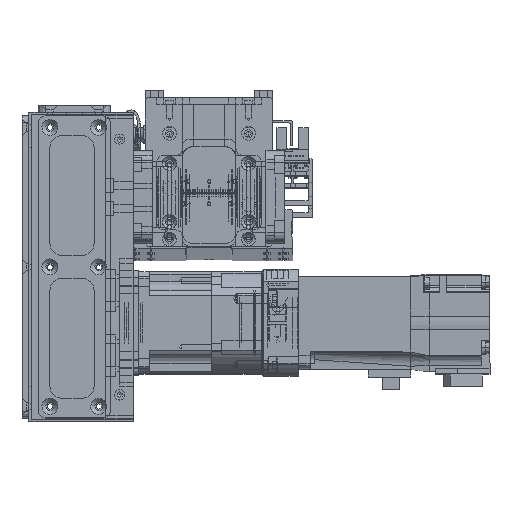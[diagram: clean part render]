
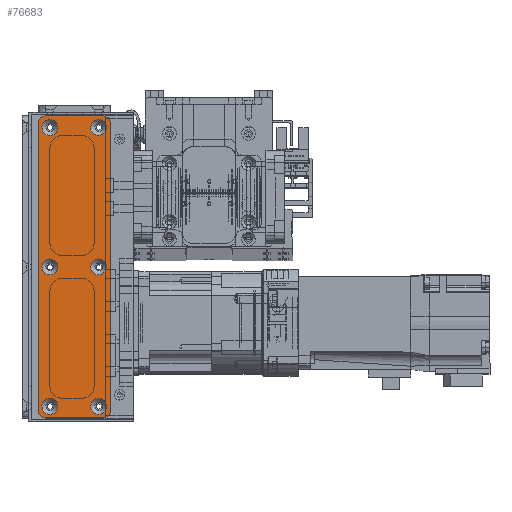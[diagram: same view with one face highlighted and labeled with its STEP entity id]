
A CAD part, top view. The second image highlights one B-rep face of the part: STEP entity #76683.
In plain terms, the highlighted planar face has unit normal (0, 0, 1).
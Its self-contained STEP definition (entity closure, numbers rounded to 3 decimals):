
#1918=FACE_BOUND('',#13264,.T.);
#1919=FACE_BOUND('',#13265,.T.);
#1920=FACE_BOUND('',#13266,.T.);
#1921=FACE_BOUND('',#13267,.T.);
#1922=FACE_BOUND('',#13268,.T.);
#1923=FACE_BOUND('',#13269,.T.);
#4550=PLANE('',#84398);
#8546=FACE_OUTER_BOUND('',#13263,.T.);
#13263=EDGE_LOOP('',(#71626,#71627,#71628,#71629,#71630,#71631,#71632,#71633));
#13264=EDGE_LOOP('',(#71634));
#13265=EDGE_LOOP('',(#71635));
#13266=EDGE_LOOP('',(#71636));
#13267=EDGE_LOOP('',(#71637));
#13268=EDGE_LOOP('',(#71638));
#13269=EDGE_LOOP('',(#71639));
#16391=CIRCLE('',#84352,3.45);
#16394=CIRCLE('',#84357,3.45);
#16397=CIRCLE('',#84362,3.45);
#16400=CIRCLE('',#84367,3.45);
#16403=CIRCLE('',#84372,3.45);
#16406=CIRCLE('',#84377,3.45);
#16413=CIRCLE('',#84387,3.);
#16414=CIRCLE('',#84390,3.);
#16415=CIRCLE('',#84393,3.);
#16416=CIRCLE('',#84396,3.);
#24078=LINE('',#132778,#31749);
#24081=LINE('',#132786,#31752);
#24084=LINE('',#132794,#31755);
#24087=LINE('',#132801,#31758);
#31749=VECTOR('',#105737,10.);
#31752=VECTOR('',#105746,10.);
#31755=VECTOR('',#105755,10.);
#31758=VECTOR('',#105764,10.);
#38900=VERTEX_POINT('',#132694);
#38903=VERTEX_POINT('',#132704);
#38906=VERTEX_POINT('',#132714);
#38909=VERTEX_POINT('',#132724);
#38912=VERTEX_POINT('',#132734);
#38915=VERTEX_POINT('',#132744);
#38926=VERTEX_POINT('',#132771);
#38927=VERTEX_POINT('',#132773);
#38928=VERTEX_POINT('',#132777);
#38929=VERTEX_POINT('',#132781);
#38930=VERTEX_POINT('',#132785);
#38931=VERTEX_POINT('',#132789);
#38932=VERTEX_POINT('',#132793);
#38933=VERTEX_POINT('',#132797);
#49782=EDGE_CURVE('',#38900,#38900,#16391,.T.);
#49787=EDGE_CURVE('',#38903,#38903,#16394,.T.);
#49792=EDGE_CURVE('',#38906,#38906,#16397,.T.);
#49797=EDGE_CURVE('',#38909,#38909,#16400,.T.);
#49802=EDGE_CURVE('',#38912,#38912,#16403,.T.);
#49807=EDGE_CURVE('',#38915,#38915,#16406,.T.);
#49821=EDGE_CURVE('',#38927,#38926,#16413,.T.);
#49823=EDGE_CURVE('',#38928,#38927,#24078,.T.);
#49825=EDGE_CURVE('',#38929,#38928,#16414,.T.);
#49827=EDGE_CURVE('',#38930,#38929,#24081,.T.);
#49829=EDGE_CURVE('',#38931,#38930,#16415,.T.);
#49831=EDGE_CURVE('',#38932,#38931,#24084,.T.);
#49833=EDGE_CURVE('',#38933,#38932,#16416,.T.);
#49835=EDGE_CURVE('',#38926,#38933,#24087,.T.);
#71626=ORIENTED_EDGE('',*,*,#49835,.T.);
#71627=ORIENTED_EDGE('',*,*,#49833,.T.);
#71628=ORIENTED_EDGE('',*,*,#49831,.T.);
#71629=ORIENTED_EDGE('',*,*,#49829,.T.);
#71630=ORIENTED_EDGE('',*,*,#49827,.T.);
#71631=ORIENTED_EDGE('',*,*,#49825,.T.);
#71632=ORIENTED_EDGE('',*,*,#49823,.T.);
#71633=ORIENTED_EDGE('',*,*,#49821,.T.);
#71634=ORIENTED_EDGE('',*,*,#49782,.T.);
#71635=ORIENTED_EDGE('',*,*,#49787,.T.);
#71636=ORIENTED_EDGE('',*,*,#49792,.T.);
#71637=ORIENTED_EDGE('',*,*,#49797,.T.);
#71638=ORIENTED_EDGE('',*,*,#49802,.T.);
#71639=ORIENTED_EDGE('',*,*,#49807,.T.);
#76683=ADVANCED_FACE('',(#8546,#1918,#1919,#1920,#1921,#1922,#1923),#4550,
 .T.);
#84352=AXIS2_PLACEMENT_3D('',#132695,#105645,#105646);
#84357=AXIS2_PLACEMENT_3D('',#132705,#105657,#105658);
#84362=AXIS2_PLACEMENT_3D('',#132715,#105669,#105670);
#84367=AXIS2_PLACEMENT_3D('',#132725,#105681,#105682);
#84372=AXIS2_PLACEMENT_3D('',#132735,#105693,#105694);
#84377=AXIS2_PLACEMENT_3D('',#132745,#105705,#105706);
#84387=AXIS2_PLACEMENT_3D('',#132774,#105732,#105733);
#84390=AXIS2_PLACEMENT_3D('',#132782,#105741,#105742);
#84393=AXIS2_PLACEMENT_3D('',#132790,#105750,#105751);
#84396=AXIS2_PLACEMENT_3D('',#132798,#105759,#105760);
#84398=AXIS2_PLACEMENT_3D('',#132802,#105765,#105766);
#105645=DIRECTION('center_axis',(0.,0.,-1.));
#105646=DIRECTION('ref_axis',(1.,0.,0.));
#105657=DIRECTION('center_axis',(0.,0.,-1.));
#105658=DIRECTION('ref_axis',(1.,0.,0.));
#105669=DIRECTION('center_axis',(0.,0.,-1.));
#105670=DIRECTION('ref_axis',(1.,0.,0.));
#105681=DIRECTION('center_axis',(0.,0.,-1.));
#105682=DIRECTION('ref_axis',(1.,0.,0.));
#105693=DIRECTION('center_axis',(0.,0.,-1.));
#105694=DIRECTION('ref_axis',(1.,0.,0.));
#105705=DIRECTION('center_axis',(0.,0.,-1.));
#105706=DIRECTION('ref_axis',(1.,0.,0.));
#105732=DIRECTION('center_axis',(0.,0.,1.));
#105733=DIRECTION('ref_axis',(0.,1.,0.));
#105737=DIRECTION('',(-1.,0.,0.));
#105741=DIRECTION('center_axis',(0.,0.,1.));
#105742=DIRECTION('ref_axis',(1.,0.,0.));
#105746=DIRECTION('',(0.,1.,0.));
#105750=DIRECTION('center_axis',(0.,0.,1.));
#105751=DIRECTION('ref_axis',(0.,-1.,0.));
#105755=DIRECTION('',(1.,0.,0.));
#105759=DIRECTION('center_axis',(0.,0.,1.));
#105760=DIRECTION('ref_axis',(-1.,0.,0.));
#105764=DIRECTION('',(0.,-1.,0.));
#105765=DIRECTION('center_axis',(0.,0.,1.));
#105766=DIRECTION('ref_axis',(1.,0.,0.));
#132694=CARTESIAN_POINT('',(-3.45,10.5,1.5));
#132695=CARTESIAN_POINT('Origin',(0.,10.5,1.5));
#132704=CARTESIAN_POINT('',(56.55,-10.5,1.5));
#132705=CARTESIAN_POINT('Origin',(60.,-10.5,1.5));
#132714=CARTESIAN_POINT('',(-63.45,10.5,1.5));
#132715=CARTESIAN_POINT('Origin',(-60.,10.5,1.5));
#132724=CARTESIAN_POINT('',(56.55,10.5,1.5));
#132725=CARTESIAN_POINT('Origin',(60.,10.5,1.5));
#132734=CARTESIAN_POINT('',(-63.45,-10.5,1.5));
#132735=CARTESIAN_POINT('Origin',(-60.,-10.5,1.5));
#132744=CARTESIAN_POINT('',(-3.45,-10.5,1.5));
#132745=CARTESIAN_POINT('Origin',(0.,-10.5,1.5));
#132771=CARTESIAN_POINT('',(-65.,12.5,1.5));
#132773=CARTESIAN_POINT('',(-62.,15.5,1.5));
#132774=CARTESIAN_POINT('Origin',(-62.,12.5,1.5));
#132777=CARTESIAN_POINT('',(62.,15.5,1.5));
#132778=CARTESIAN_POINT('',(62.,15.5,1.5));
#132781=CARTESIAN_POINT('',(65.,12.5,1.5));
#132782=CARTESIAN_POINT('Origin',(62.,12.5,1.5));
#132785=CARTESIAN_POINT('',(65.,-12.5,1.5));
#132786=CARTESIAN_POINT('',(65.,-12.5,1.5));
#132789=CARTESIAN_POINT('',(62.,-15.5,1.5));
#132790=CARTESIAN_POINT('Origin',(62.,-12.5,1.5));
#132793=CARTESIAN_POINT('',(-62.,-15.5,1.5));
#132794=CARTESIAN_POINT('',(-62.,-15.5,1.5));
#132797=CARTESIAN_POINT('',(-65.,-12.5,1.5));
#132798=CARTESIAN_POINT('Origin',(-62.,-12.5,1.5));
#132801=CARTESIAN_POINT('',(-65.,12.5,1.5));
#132802=CARTESIAN_POINT('Origin',(0.,0.,
1.5));
